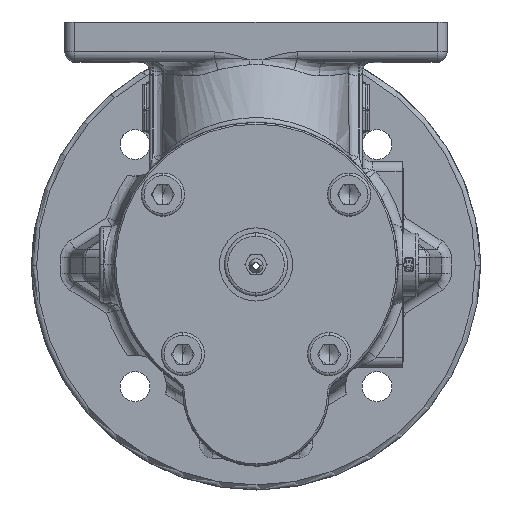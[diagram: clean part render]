
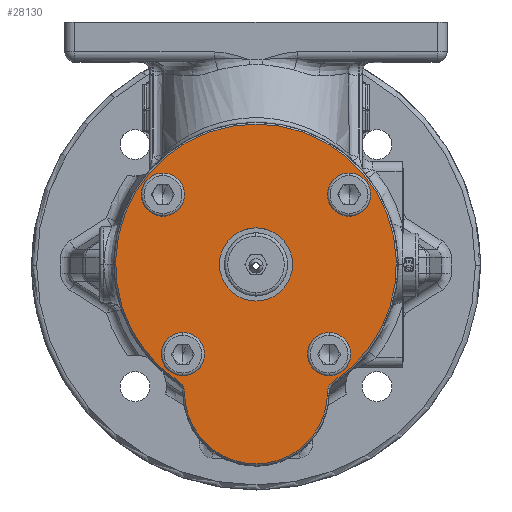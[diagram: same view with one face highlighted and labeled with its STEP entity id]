
A CAD part, top view. The second image highlights one B-rep face of the part: STEP entity #28130.
In plain terms, the highlighted planar face has unit normal (0, 0, 1).
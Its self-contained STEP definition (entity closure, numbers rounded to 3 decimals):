
#60 = VERTEX_POINT ( 'NONE', #76077 ) ;
#645 = CIRCLE ( 'NONE', #65285, 4.25 ) ;
#1610 = VERTEX_POINT ( 'NONE', #86091 ) ;
#1740 = VERTEX_POINT ( 'NONE', #50649 ) ;
#2549 = DIRECTION ( 'NONE',  ( 0., 0., 1. ) ) ;
#2795 = ORIENTED_EDGE ( 'NONE', *, *, #33242, .F. ) ;
#3805 = VERTEX_POINT ( 'NONE', #18499 ) ;
#3975 = EDGE_CURVE ( 'NONE', #54772, #1740, #76011, .T. ) ;
#4110 = CARTESIAN_POINT ( 'NONE',  ( 28., 21., 15. ) ) ;
#4900 = PLANE ( 'NONE',  #66411 ) ;
#5859 = CIRCLE ( 'NONE', #51430, 3.5 ) ;
#5974 = DIRECTION ( 'NONE',  ( 0., -1., 0. ) ) ;
#6228 = EDGE_CURVE ( 'NONE', #18910, #1610, #73270, .T. ) ;
#7763 = AXIS2_PLACEMENT_3D ( 'NONE', #76891, #35952, #14288 ) ;
#7783 = DIRECTION ( 'NONE',  ( 0., 0., 1. ) ) ;
#9525 = AXIS2_PLACEMENT_3D ( 'NONE', #29124, #63673, #71034 ) ;
#10339 = AXIS2_PLACEMENT_3D ( 'NONE', #59132, #65556, #51782 ) ;
#12543 = VERTEX_POINT ( 'NONE', #59744 ) ;
#13071 = EDGE_CURVE ( 'NONE', #12543, #68041, #32843, .T. ) ;
#13551 = CARTESIAN_POINT ( 'NONE',  ( 0., -38.5, 15. ) ) ;
#13919 = CARTESIAN_POINT ( 'NONE',  ( -22., -22.75, 15. ) ) ;
#14058 = ORIENTED_EDGE ( 'NONE', *, *, #41465, .T. ) ;
#14187 = EDGE_CURVE ( 'NONE', #76798, #60, #28395, .T. ) ;
#14288 = DIRECTION ( 'NONE',  ( 0., 1., 0. ) ) ;
#14462 = DIRECTION ( 'NONE',  ( 0., 1., 0. ) ) ;
#14685 = AXIS2_PLACEMENT_3D ( 'NONE', #81215, #2549, #80293 ) ;
#14787 = DIRECTION ( 'NONE',  ( 0., 0., 1. ) ) ;
#15183 = DIRECTION ( 'NONE',  ( 0., 1., 0. ) ) ;
#16016 = CARTESIAN_POINT ( 'NONE',  ( 23.087, -35.384, 15. ) ) ;
#16183 = ORIENTED_EDGE ( 'NONE', *, *, #14187, .F. ) ;
#16349 = EDGE_CURVE ( 'NONE', #54329, #77699, #645, .T. ) ;
#17460 = DIRECTION ( 'NONE',  ( 0., 0., -1. ) ) ;
#18393 = AXIS2_PLACEMENT_3D ( 'NONE', #4110, #74521, #60313 ) ;
#18499 = CARTESIAN_POINT ( 'NONE',  ( 22., -22.75, 15. ) ) ;
#18910 = VERTEX_POINT ( 'NONE', #68234 ) ;
#20012 = EDGE_CURVE ( 'NONE', #42483, #84178, #86058, .T. ) ;
#22669 = EDGE_LOOP ( 'NONE', ( #2795, #25431 ) ) ;
#22946 = CIRCLE ( 'NONE', #77371, 4.25 ) ;
#25431 = ORIENTED_EDGE ( 'NONE', *, *, #16349, .F. ) ;
#25982 = VERTEX_POINT ( 'NONE', #64429 ) ;
#26191 = CARTESIAN_POINT ( 'NONE',  ( -24.999, -38.316, 15. ) ) ;
#27988 = CIRCLE ( 'NONE', #10339, 4.25 ) ;
#28130 = ADVANCED_FACE ( 'NONE', ( #53284, #82638, #87719, #59703, #40379, #54186 ), #4900, .T. ) ;
#28395 = CIRCLE ( 'NONE', #7763, 4.25 ) ;
#28447 = CARTESIAN_POINT ( 'NONE',  ( 0., 0., 15. ) ) ;
#28620 = AXIS2_PLACEMENT_3D ( 'NONE', #57563, #84661, #15183 ) ;
#28650 = CARTESIAN_POINT ( 'NONE',  ( 22., -31.25, 15. ) ) ;
#29124 = CARTESIAN_POINT ( 'NONE',  ( -22., -27., 15. ) ) ;
#29347 = ORIENTED_EDGE ( 'NONE', *, *, #80528, .F. ) ;
#29792 = DIRECTION ( 'NONE',  ( 0., 1., 0. ) ) ;
#30838 = CARTESIAN_POINT ( 'NONE',  ( 22., -27., 15. ) ) ;
#31910 = CIRCLE ( 'NONE', #83332, 11. ) ;
#32748 = EDGE_CURVE ( 'NONE', #25982, #54772, #56641, .T. ) ;
#32843 = CIRCLE ( 'NONE', #84263, 21.5 ) ;
#33242 = EDGE_CURVE ( 'NONE', #77699, #54329, #53657, .T. ) ;
#33575 = DIRECTION ( 'NONE',  ( 0., 1., 0. ) ) ;
#35289 = CIRCLE ( 'NONE', #14685, 21.5 ) ;
#35952 = DIRECTION ( 'NONE',  ( 0., 0., 1. ) ) ;
#36962 = EDGE_LOOP ( 'NONE', ( #61755, #64063, #14058, #83361, #85120 ) ) ;
#36995 = DIRECTION ( 'NONE',  ( 0., 0., 1. ) ) ;
#38071 = ORIENTED_EDGE ( 'NONE', *, *, #59388, .F. ) ;
#40248 = EDGE_LOOP ( 'NONE', ( #40570, #84697 ) ) ;
#40379 = FACE_BOUND ( 'NONE', #41594, .T. ) ;
#40570 = ORIENTED_EDGE ( 'NONE', *, *, #41374, .F. ) ;
#41374 = EDGE_CURVE ( 'NONE', #44736, #3805, #85212, .T. ) ;
#41465 = EDGE_CURVE ( 'NONE', #1740, #12543, #5859, .T. ) ;
#41594 = EDGE_LOOP ( 'NONE', ( #29347, #16183 ) ) ;
#42483 = VERTEX_POINT ( 'NONE', #76359 ) ;
#42753 = DIRECTION ( 'NONE',  ( 0., 0., 1. ) ) ;
#43712 = EDGE_CURVE ( 'NONE', #68041, #25982, #35289, .T. ) ;
#44736 = VERTEX_POINT ( 'NONE', #28650 ) ;
#45570 = AXIS2_PLACEMENT_3D ( 'NONE', #30838, #59379, #87389 ) ;
#46358 = DIRECTION ( 'NONE',  ( 0., 0., 1. ) ) ;
#49482 = DIRECTION ( 'NONE',  ( 0., 0., 1. ) ) ;
#50649 = CARTESIAN_POINT ( 'NONE',  ( -23.087, -35.384, 15. ) ) ;
#51430 = AXIS2_PLACEMENT_3D ( 'NONE', #26191, #17460, #33575 ) ;
#51782 = DIRECTION ( 'NONE',  ( 0., -1., 0. ) ) ;
#53284 = FACE_OUTER_BOUND ( 'NONE', #36962, .T. ) ;
#53657 = CIRCLE ( 'NONE', #9525, 4.25 ) ;
#54186 = FACE_BOUND ( 'NONE', #22669, .T. ) ;
#54329 = VERTEX_POINT ( 'NONE', #82436 ) ;
#54772 = VERTEX_POINT ( 'NONE', #16016 ) ;
#55667 = AXIS2_PLACEMENT_3D ( 'NONE', #28447, #42753, #29792 ) ;
#56294 = CARTESIAN_POINT ( 'NONE',  ( 0., 0., 15. ) ) ;
#56641 = CIRCLE ( 'NONE', #28620, 3.5 ) ;
#56775 = ORIENTED_EDGE ( 'NONE', *, *, #20012, .F. ) ;
#57563 = CARTESIAN_POINT ( 'NONE',  ( 24.999, -38.316, 15. ) ) ;
#59132 = CARTESIAN_POINT ( 'NONE',  ( 22., -27., 15. ) ) ;
#59379 = DIRECTION ( 'NONE',  ( 0., 0., 1. ) ) ;
#59388 = EDGE_CURVE ( 'NONE', #84178, #42483, #83034, .T. ) ;
#59703 = FACE_BOUND ( 'NONE', #82392, .T. ) ;
#59744 = CARTESIAN_POINT ( 'NONE',  ( -21.499, -38.342, 15. ) ) ;
#60313 = DIRECTION ( 'NONE',  ( 0., -1., 0. ) ) ;
#61695 = CARTESIAN_POINT ( 'NONE',  ( 28., 21., 15. ) ) ;
#61755 = ORIENTED_EDGE ( 'NONE', *, *, #32748, .T. ) ;
#63048 = DIRECTION ( 'NONE',  ( 0., 1., 0. ) ) ;
#63673 = DIRECTION ( 'NONE',  ( 0., 0., 1. ) ) ;
#64035 = DIRECTION ( 'NONE',  ( 0., 1., 0. ) ) ;
#64063 = ORIENTED_EDGE ( 'NONE', *, *, #3975, .T. ) ;
#64429 = CARTESIAN_POINT ( 'NONE',  ( 21.499, -38.342, 15. ) ) ;
#65285 = AXIS2_PLACEMENT_3D ( 'NONE', #70859, #7783, #63048 ) ;
#65556 = DIRECTION ( 'NONE',  ( 0., 0., 1. ) ) ;
#66411 = AXIS2_PLACEMENT_3D ( 'NONE', #89559, #46358, #74383 ) ;
#68041 = VERTEX_POINT ( 'NONE', #90086 ) ;
#68234 = CARTESIAN_POINT ( 'NONE',  ( 0., 11., 15. ) ) ;
#70171 = AXIS2_PLACEMENT_3D ( 'NONE', #56294, #70536, #84285 ) ;
#70536 = DIRECTION ( 'NONE',  ( 0., 0., 1. ) ) ;
#70859 = CARTESIAN_POINT ( 'NONE',  ( -22., -27., 15. ) ) ;
#71034 = DIRECTION ( 'NONE',  ( 0., 1., 0. ) ) ;
#71112 = EDGE_LOOP ( 'NONE', ( #82609, #83109 ) ) ;
#73270 = CIRCLE ( 'NONE', #55667, 11. ) ;
#73486 = CARTESIAN_POINT ( 'NONE',  ( 28., 16.75, 15. ) ) ;
#74383 = DIRECTION ( 'NONE',  ( 0., 1., 0. ) ) ;
#74521 = DIRECTION ( 'NONE',  ( 0., 0., 1. ) ) ;
#76011 = CIRCLE ( 'NONE', #70171, 42.25 ) ;
#76077 = CARTESIAN_POINT ( 'NONE',  ( -28., 25.25, 15. ) ) ;
#76359 = CARTESIAN_POINT ( 'NONE',  ( 28., 25.25, 15. ) ) ;
#76798 = VERTEX_POINT ( 'NONE', #79195 ) ;
#76891 = CARTESIAN_POINT ( 'NONE',  ( -28., 21., 15. ) ) ;
#77371 = AXIS2_PLACEMENT_3D ( 'NONE', #79261, #36995, #85270 ) ;
#77699 = VERTEX_POINT ( 'NONE', #13919 ) ;
#77826 = CARTESIAN_POINT ( 'NONE',  ( 0., 0., 15. ) ) ;
#79195 = CARTESIAN_POINT ( 'NONE',  ( -28., 16.75, 15. ) ) ;
#79249 = EDGE_CURVE ( 'NONE', #3805, #44736, #27988, .T. ) ;
#79261 = CARTESIAN_POINT ( 'NONE',  ( -28., 21., 15. ) ) ;
#80293 = DIRECTION ( 'NONE',  ( 0., 1., 0. ) ) ;
#80528 = EDGE_CURVE ( 'NONE', #60, #76798, #22946, .T. ) ;
#81215 = CARTESIAN_POINT ( 'NONE',  ( 0., -38.5, 15. ) ) ;
#82392 = EDGE_LOOP ( 'NONE', ( #38071, #56775 ) ) ;
#82436 = CARTESIAN_POINT ( 'NONE',  ( -22., -31.25, 15. ) ) ;
#82609 = ORIENTED_EDGE ( 'NONE', *, *, #6228, .F. ) ;
#82638 = FACE_BOUND ( 'NONE', #71112, .T. ) ;
#82798 = DIRECTION ( 'NONE',  ( 0., 0., 1. ) ) ;
#82930 = EDGE_CURVE ( 'NONE', #1610, #18910, #31910, .T. ) ;
#83034 = CIRCLE ( 'NONE', #18393, 4.25 ) ;
#83109 = ORIENTED_EDGE ( 'NONE', *, *, #82930, .F. ) ;
#83332 = AXIS2_PLACEMENT_3D ( 'NONE', #77826, #14787, #64035 ) ;
#83361 = ORIENTED_EDGE ( 'NONE', *, *, #13071, .T. ) ;
#84178 = VERTEX_POINT ( 'NONE', #73486 ) ;
#84263 = AXIS2_PLACEMENT_3D ( 'NONE', #13551, #49482, #14462 ) ;
#84285 = DIRECTION ( 'NONE',  ( 0., 1., 0. ) ) ;
#84661 = DIRECTION ( 'NONE',  ( 0., 0., -1. ) ) ;
#84697 = ORIENTED_EDGE ( 'NONE', *, *, #79249, .F. ) ;
#85120 = ORIENTED_EDGE ( 'NONE', *, *, #43712, .T. ) ;
#85212 = CIRCLE ( 'NONE', #45570, 4.25 ) ;
#85270 = DIRECTION ( 'NONE',  ( 0., 1., 0. ) ) ;
#86058 = CIRCLE ( 'NONE', #87556, 4.25 ) ;
#86091 = CARTESIAN_POINT ( 'NONE',  ( 0., -11., 15. ) ) ;
#87389 = DIRECTION ( 'NONE',  ( 0., -1., 0. ) ) ;
#87556 = AXIS2_PLACEMENT_3D ( 'NONE', #61695, #82798, #5974 ) ;
#87719 = FACE_BOUND ( 'NONE', #40248, .T. ) ;
#89559 = CARTESIAN_POINT ( 'NONE',  ( 0., -19.25, 15. ) ) ;
#90086 = CARTESIAN_POINT ( 'NONE',  ( 0., -60., 15. ) ) ;
